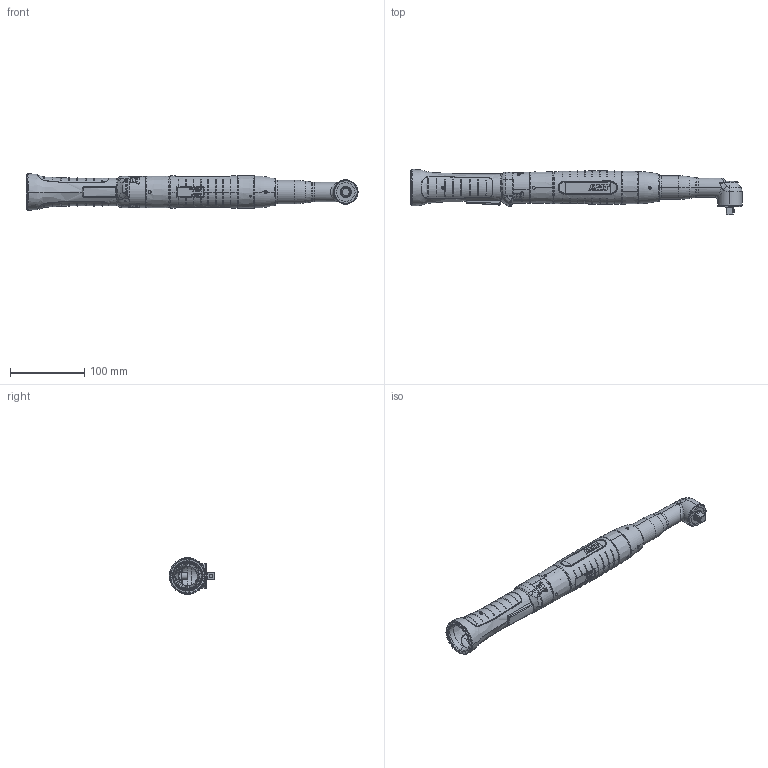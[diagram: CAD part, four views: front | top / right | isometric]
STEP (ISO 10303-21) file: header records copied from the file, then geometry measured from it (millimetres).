
FILE_DESCRIPTION (( 'STEP AP214' ), '1' );
FILE_NAME ('7900177_HCX1039WV38_Standard.STEP', '2012-02-07T16:07:56', ( ' ' ), ( '' ), 'SwSTEP 2.0', 'SolidWorks 2009', '' );
FILE_SCHEMA (( 'AUTOMOTIVE_DESIGN' ));
Length unit declared in the file: millimetre
Products named in the file (1): 7900177_HCX1039WV38_Standard
Bounding box: 448.2 x 61.23 x 49.46 mm (x, y, z)
Surface area: 73477.7 mm2 (no closed solid volume)
Topology: 0 solids, 33 shells, 954 faces, 3248 edges, 2213 vertices
Faces by surface type: plane 247, torus 243, bspline 228, cylinder 187, cone 48, sphere 1
Entity records: 62140 total; most frequent: CARTESIAN_POINT 26475, ORIENTED_EDGE 5239, DIRECTION 4738, EDGE_CURVE 3243, VERTEX_POINT 2213, AXIS2_PLACEMENT_3D 1958, CIRCLE 1231, EDGE_LOOP 1041
